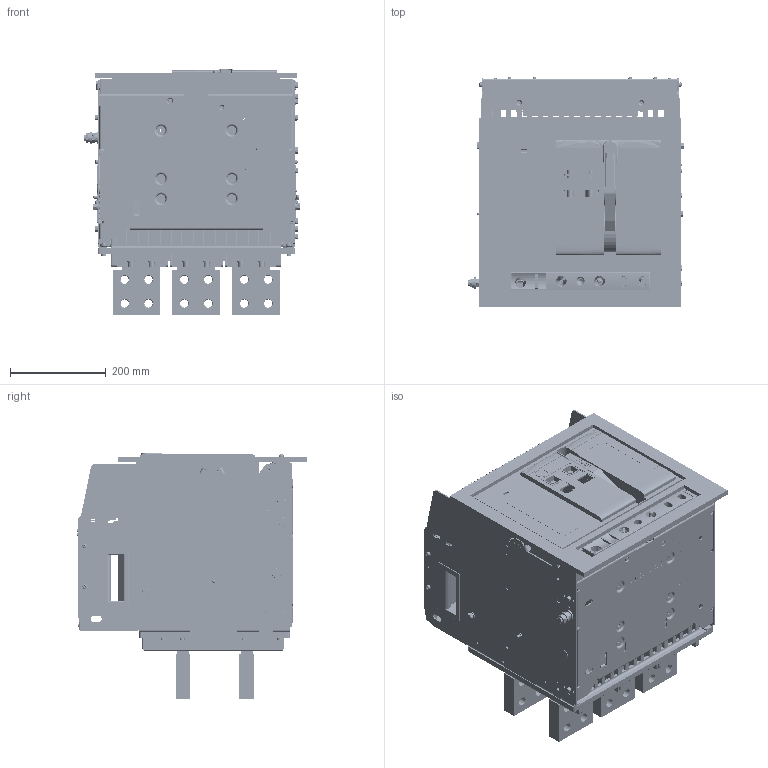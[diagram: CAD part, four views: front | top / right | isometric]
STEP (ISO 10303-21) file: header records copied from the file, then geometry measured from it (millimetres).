
FILE_DESCRIPTION (( 'STEP AP214' ), '1' );
FILE_NAME ('TGW1N-4000 D 3P 3600-4000A.STEP', '2026-06-04T10:28:51', ( '' ), ( '' ), 'SwSTEP 2.0', 'SolidWorks 2024', '' );
FILE_SCHEMA (( 'AUTOMOTIVE_DESIGN' ));
Length unit declared in the file: millimetre
Products named in the file (40): PRT0006.stp; GB_T70_1-M6X20_1_1_1.stp; TENGEN_TGW1N-4000_3P_2500A-3200_ASM.stp; CTZ_1_1_2_ASM_1_ASM-0.stp; GB_T97_1_6_1_1_1.stp; GB_T93-6_1_1_1.stp; 8TZD_087_6008.stp; 2TZD_257_6012_ASM_ASM_1_ASM_1_ASM.stp; 8TZD_020_1016_1_1_1.stp; TGW1N-4000 D 3P 3600-4000A; TENGEN_TGW1N-4000_3p_3600-4000A_D (2).stp; 2MUPAI.stp; 6TZD_229_6011_AF0_ASM_1_ASM_1_A_ASM.stp; 5TZD_020_1043_ASM_1_ASM_1_ASM_1_ASM.stp; 8TZD_156_6064.stp; TENGEN_Рамка_3200-6300_Drawer; 111111111_1_1_1.stp; CTZ_1_1_2_1_1.stp; GB_T809-M6X12-A_1_1_1.stp; 8TZD_001_1005_1_1_1.stp; CTZ_1_1_2_2_1.stp; 5TZD_260_1003_AF1_ASM_1_ASM_1_A_ASM.stp; 8TZD_311_1031_1_1_1.stp; PRT0005.stp; FHZ_1_1.stp; 8TZD_580_1088_1_1_1.stp; 5TZD_558_1012_1_1_1.stp; TENGEN_Рамка_3200-6300_Drawer.stp; GB_T93-8_1_1_1.stp; 2TZD_257_6012_ASM_1_ASM_1_ASM_1_ASM.stp; 1MUPAI.stp; GB_T70_1-M8X25_1_1_1.stp; 5TZD_260_1003_AF0_ASM_1_ASM_1_A_ASM.stp; 5TZD_020_1044_AF0_ASM_1_ASM_1_A_ASM.stp; GB_T97_1_8_1_1_1.stp; ASM0002_ASM_1_1_1.stp; GB_T819_1-M6X16_1_1_1.stp; CTZ_1_1_2_3_1.stp; MZ_1_1.stp; CTZ_1_1_2_ASM_1_ASM.stp
Assembly tree (184 placements, depth 9):
  TGW1N-4000 D 3P 3600-4000A
    TENGEN_TGW1N-4000_3p_3600-4000A_D (2).stp
      TENGEN_TGW1N-4000_3P_2500A-3200_ASM.stp
        2TZD_257_6012_ASM_ASM_1_ASM_1_ASM.stp
          2TZD_257_6012_ASM_1_ASM_1_ASM_1_ASM.stp
            6TZD_229_6011_AF0_ASM_1_ASM_1_A_ASM.stp
              5TZD_020_1044_AF0_ASM_1_ASM_1_A_ASM.stp
                5TZD_020_1043_ASM_1_ASM_1_ASM_1_ASM.stp
                  8TZD_020_1016_1_1_1.stp
                  GB_T809-M6X12-A_1_1_1.stp  x24
                5TZD_260_1003_AF0_ASM_1_ASM_1_A_ASM.stp
                  8TZD_001_1005_1_1_1.stp
                  8TZD_311_1031_1_1_1.stp
                5TZD_260_1003_AF1_ASM_1_ASM_1_A_ASM.stp
                  8TZD_001_1005_1_1_1.stp
                  8TZD_311_1031_1_1_1.stp
                8TZD_580_1088_1_1_1.stp  x6
                GB_T819_1-M6X16_1_1_1.stp  x24
                GB_T97_1_8_1_1_1.stp  x24
                GB_T93-8_1_1_1.stp  x24
                GB_T70_1-M8X25_1_1_1.stp  x24
              GB_T97_1_6_1_1_1.stp  x8
              GB_T93-6_1_1_1.stp  x8
              GB_T70_1-M6X20_1_1_1.stp  x8
            5TZD_558_1012_1_1_1.stp
            ASM0002_ASM_1_1_1.stp
            111111111_1_1_1.stp
          CTZ_1_1_2_ASM_1_ASM.stp
            CTZ_1_1_2_1_1.stp
            CTZ_1_1_2_2_1.stp
            CTZ_1_1_2_3_1.stp
            CTZ_1_1_2_ASM_1_ASM-0.stp
          MZ_1_1.stp
          FHZ_1_1.stp
      1MUPAI.stp  x2
      2MUPAI.stp  x2
      PRT0005.stp
      PRT0006.stp
    TENGEN_Рамка_3200-6300_Drawer
      TENGEN_Рамка_3200-6300_Drawer.stp
        8TZD_087_6008.stp
        8TZD_156_6064.stp
Bounding box: 452.15 x 482 x 516.3 mm (x, y, z)
Volume: 7221186.7 mm3; surface area: 4703528.6 mm2
Topology: 81 solids, 393 shells, 20211 faces, 52991 edges, 33443 vertices
Faces by surface type: plane 10821, cylinder 6371, cone 1694, bspline 594, torus 563, sphere 168
Entity records: 642103 total; most frequent: CARTESIAN_POINT 232243, ORIENTED_EDGE 89039, DIRECTION 79112, EDGE_CURVE 44649, VERTEX_POINT 28444, AXIS2_PLACEMENT_3D 26563, VECTOR 25986, LINE 25986
